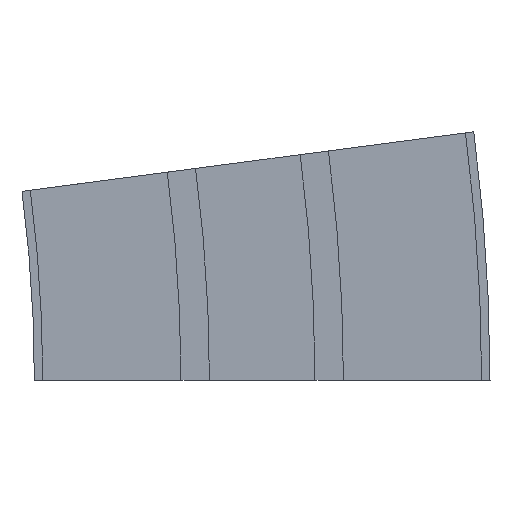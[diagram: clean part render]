
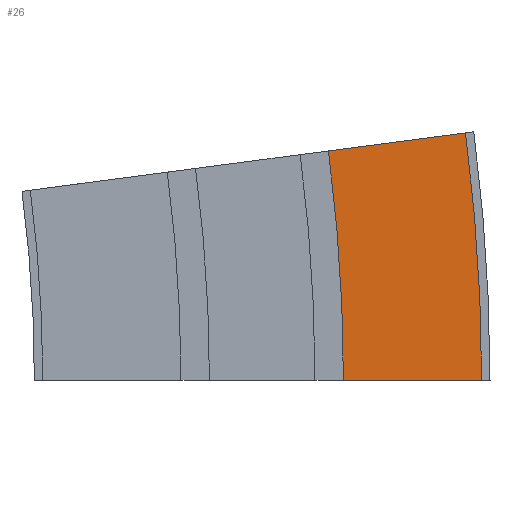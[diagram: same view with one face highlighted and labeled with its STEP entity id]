
A CAD part, left-side view. The second image highlights one B-rep face of the part: STEP entity #26.
In plain terms, the highlighted planar face has unit normal (-1, 0, 0).
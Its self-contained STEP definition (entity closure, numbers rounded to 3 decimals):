
#26 = ADVANCED_FACE ( 'NONE', ( #852 ), #157, .F. ) ;
#37 = EDGE_CURVE ( 'NONE', #956, #968, #843, .T. ) ;
#105 = EDGE_CURVE ( 'NONE', #968, #961, #512, .T. ) ;
#106 = EDGE_CURVE ( 'NONE', #956, #954, #513, .T. ) ;
#107 = EDGE_CURVE ( 'NONE', #954, #961, #621, .T. ) ;
#157 = PLANE ( 'NONE',  #255 ) ;
#158 = CARTESIAN_POINT ( 'NONE',  ( -249.5, -19.765, 68.428 ) ) ;
#159 = DIRECTION ( 'NONE',  ( 1., 0., 0. ) ) ;
#160 = DIRECTION ( 'NONE',  ( 0., 0., -1. ) ) ;
#165 = CARTESIAN_POINT ( 'NONE',  ( -249.5, -19.765, 68.428 ) ) ;
#166 = DIRECTION ( 'NONE',  ( 0., -0.991, 0.131 ) ) ;
#168 = CARTESIAN_POINT ( 'NONE',  ( -249.5, 500., 0. ) ) ;
#169 = DIRECTION ( 'NONE',  ( 1., 0., 0. ) ) ;
#170 = DIRECTION ( 'NONE',  ( 0., 0., -1. ) ) ;
#221 = AXIS2_PLACEMENT_3D ( 'NONE', #168, #169, #170 ) ;
#247 = AXIS2_PLACEMENT_3D ( 'NONE', #661, #662, #663 ) ;
#255 = AXIS2_PLACEMENT_3D ( 'NONE', #158, #159, #160 ) ;
#271 = ORIENTED_EDGE ( 'NONE', *, *, #105, .T. ) ;
#272 = ORIENTED_EDGE ( 'NONE', *, *, #37, .T. ) ;
#273 = ORIENTED_EDGE ( 'NONE', *, *, #106, .F. ) ;
#274 = ORIENTED_EDGE ( 'NONE', *, *, #107, .F. ) ;
#469 = CARTESIAN_POINT ( 'NONE',  ( -249.5, -60.662, 73.813 ) ) ;
#471 = CARTESIAN_POINT ( 'NONE',  ( -249.5, -19.765, 68.428 ) ) ;
#476 = CARTESIAN_POINT ( 'NONE',  ( -249.5, -65.5, 0. ) ) ;
#483 = CARTESIAN_POINT ( 'NONE',  ( -249.5, -24.25, 0. ) ) ;
#509 = VECTOR ( 'NONE', #647, 1000. ) ;
#512 = LINE ( 'NONE', #646, #509 ) ;
#513 = LINE ( 'NONE', #165, #608 ) ;
#608 = VECTOR ( 'NONE', #166, 1000. ) ;
#621 = CIRCLE ( 'NONE', #221, 565.5 ) ;
#646 = CARTESIAN_POINT ( 'NONE',  ( -249.5, -24.25, 0. ) ) ;
#647 = DIRECTION ( 'NONE',  ( 0., -1., 0. ) ) ;
#661 = CARTESIAN_POINT ( 'NONE',  ( -249.5, 500., 0. ) ) ;
#662 = DIRECTION ( 'NONE',  ( 1., 0., 0. ) ) ;
#663 = DIRECTION ( 'NONE',  ( 0., 0., -1. ) ) ;
#843 = CIRCLE ( 'NONE', #247, 524.25 ) ;
#852 = FACE_OUTER_BOUND ( 'NONE', #900, .T. ) ;
#900 = EDGE_LOOP ( 'NONE', ( #274, #273, #272, #271 ) ) ;
#954 = VERTEX_POINT ( 'NONE', #469 ) ;
#956 = VERTEX_POINT ( 'NONE', #471 ) ;
#961 = VERTEX_POINT ( 'NONE', #476 ) ;
#968 = VERTEX_POINT ( 'NONE', #483 ) ;
